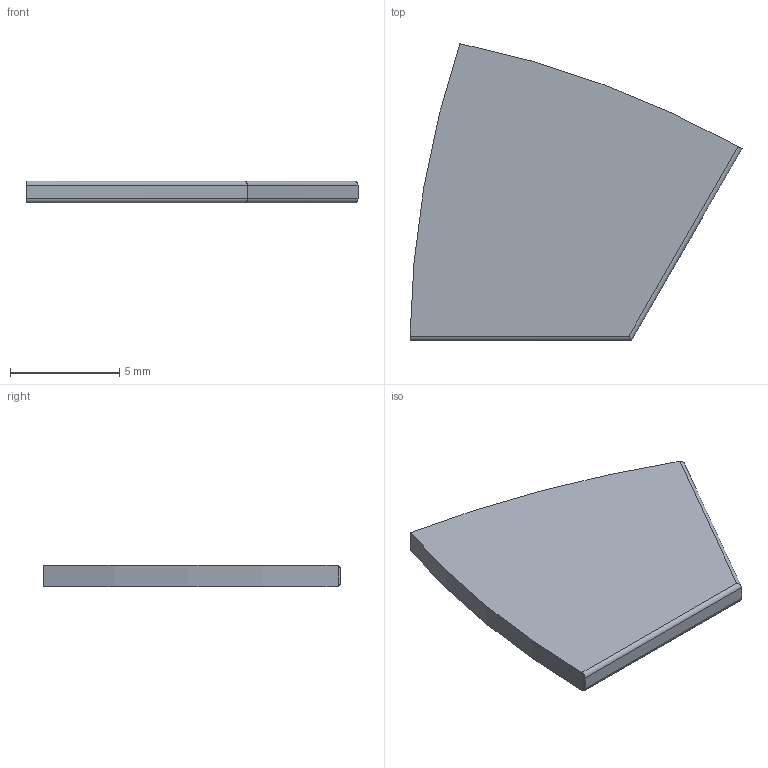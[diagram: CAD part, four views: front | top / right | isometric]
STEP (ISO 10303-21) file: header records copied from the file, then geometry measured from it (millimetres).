
FILE_DESCRIPTION(('FreeCAD Model'),'2;1');
FILE_NAME('Open CASCADE Shape Model','2026-02-13T10:39:02',(''),(''), 'Open CASCADE STEP processor 7.8','FreeCAD','Unknown');
FILE_SCHEMA(('AUTOMOTIVE_DESIGN { 1 0 10303 214 1 1 1 1 }'));
Length unit declared in the file: millimetre
Products named in the file (1): Body
Bounding box: 15.16 x 13.56 x 1 mm (x, y, z)
Volume: 146.5 mm3; surface area: 338 mm2
Topology: 1 solids, 1 shells, 11 faces, 25 edges, 16 vertices
Faces by surface type: cylinder 6, plane 5
Entity records: 353 total; most frequent: CARTESIAN_POINT 81, DIRECTION 53, ORIENTED_EDGE 50, EDGE_CURVE 25, AXIS2_PLACEMENT_3D 20, VERTEX_POINT 16, LINE 13, VECTOR 13
